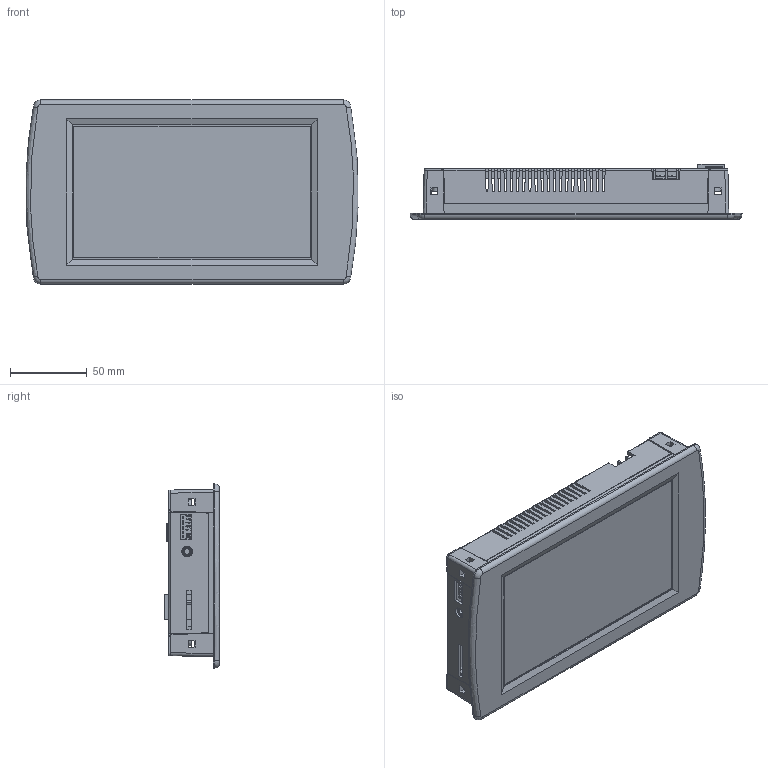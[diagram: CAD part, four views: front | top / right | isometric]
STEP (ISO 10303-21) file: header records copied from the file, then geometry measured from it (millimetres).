
FILE_DESCRIPTION (( 'STEP AP214' ), '1' );
FILE_NAME ('CWV2-070BR_rev0_ASM_for_Step.STEP', '2017-07-27T08:04:18', ( 'luke' ), ( '' ), 'SwSTEP 2.0', 'SolidWorks 2016', '' );
FILE_SCHEMA (( 'AUTOMOTIVE_DESIGN' ));
Length unit declared in the file: millimetre
Products named in the file (1): CWV2-070BR_rev0_ASM_for_Step
Bounding box: 216.37 x 35.8 x 120 mm (x, y, z)
Surface area: 145476.9 mm2 (no closed solid volume)
Topology: 0 solids, 129 shells, 2347 faces, 11762 edges, 9212 vertices
Faces by surface type: plane 1567, bspline 340, cylinder 312, cone 94, torus 30, sphere 4
Entity records: 175706 total; most frequent: CARTESIAN_POINT 65177, ORIENTED_EDGE 16784, DIRECTION 13931, EDGE_CURVE 11750, VERTEX_POINT 9204, VECTOR 8271, LINE 8271, AXIS2_PLACEMENT_3D 2830
